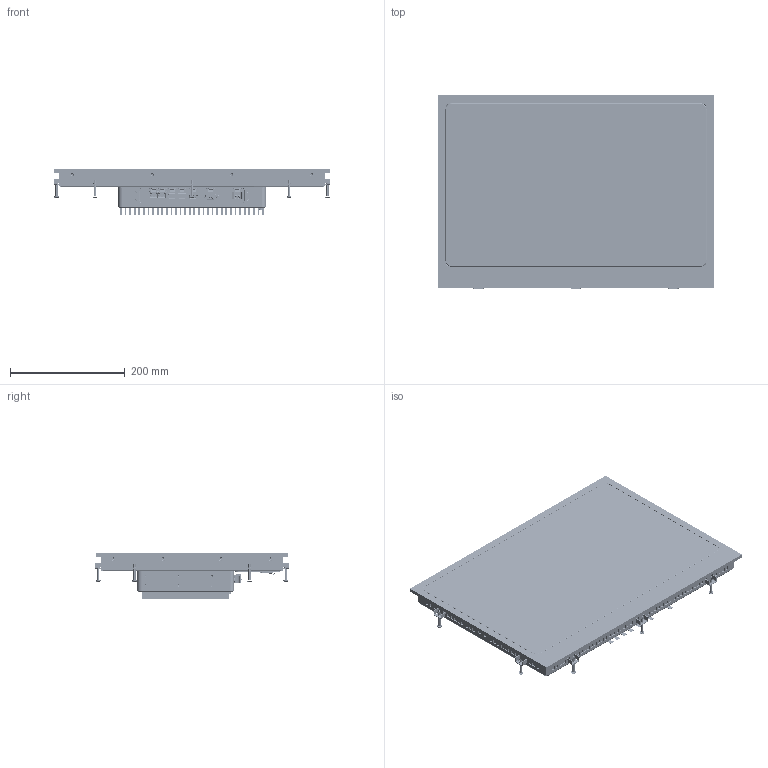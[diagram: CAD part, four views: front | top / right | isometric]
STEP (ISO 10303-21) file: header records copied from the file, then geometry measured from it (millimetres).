
FILE_DESCRIPTION(/* description */ (''),/* implementation_level */ '2;1');
FILE_NAME(/* name */ 'D:\Modelle vereinfacht\notion.S\CPU 14\18.5 Zoll\778-11981-00_EXTERN.stp',/* time_stamp */ '2025-07-09T12:53:36+02:00',/* author */ ('Blessing'),/* organization */ (''),/* preprocessor_version */ 'ST-DEVELOPER v18.1',/* originating_system */ 'Autodesk Inventor 2021',/* authorisation */ '');
FILE_SCHEMA (('AUTOMOTIVE_DESIGN { 1 0 10303 214 3 1 1 }'));
Products named in the file (4): Baugruppe96; 778-11981-00_EXTERN2; 778-90247_EXTERN_18.5; 64-196-296_EXTERN_CPU14
Assembly tree (3 placements, depth 2):
  Baugruppe96
    778-11981-00_EXTERN2
    778-90247_EXTERN_18.5
    64-196-296_EXTERN_CPU14
Bounding box: 483.5 x 337.5 x 79.4 mm (x, y, z)
Volume: 6464919.4 mm3; surface area: 611204.6 mm2
Topology: 28 solids, 54 shells, 13040 faces, 36869 edges, 24135 vertices
Faces by surface type: plane 8676, cylinder 2848, bspline 806, cone 370, torus 292, sphere 48
Full cylindrical faces by diameter (mm): 0.457 x1, 0.65 x16, 0.95 x32, 2.156 x2, 2.5 x4, 2.8 x2, 3.242 x10, 4 x12, 4.7 x8, 5.54 x25, 6 x11, 6.2 x12, 7 x1, 7.2 x12
Entity records: 456142 total; most frequent: CARTESIAN_POINT 108341, ORIENTED_EDGE 72144, DIRECTION 65277, EDGE_CURVE 36811, LINE 27105, VECTOR 27105, VERTEX_POINT 24135, AXIS2_PLACEMENT_3D 19086
